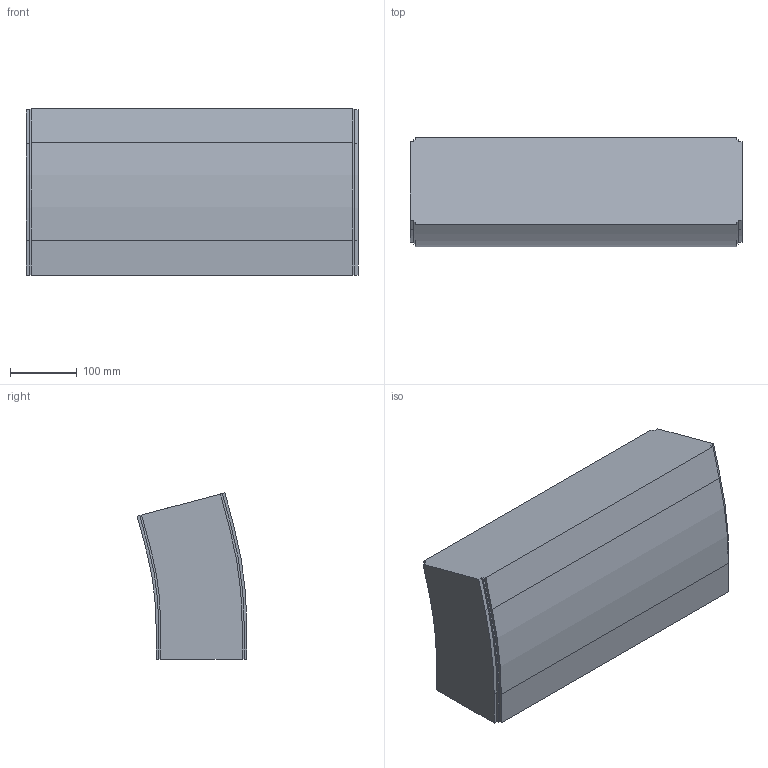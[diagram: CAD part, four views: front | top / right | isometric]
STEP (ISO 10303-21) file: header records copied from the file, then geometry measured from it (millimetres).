
FILE_DESCRIPTION (( 'STEP AP214' ), '1' );
FILE_NAME ('FS-MTC2-150-INOX verticaalbocht.500 15°.STEP', '2017-02-08T12:42:19', ( '' ), ( '' ), 'SwSTEP 2.0', 'SolidWorks 2016', '' );
FILE_SCHEMA (( 'AUTOMOTIVE_DESIGN' ));
Length unit declared in the file: millimetre
Products named in the file (1): FS-MTC2-150-INOX verticaalbocht.500 15°
Bounding box: 499 x 164.8 x 250.28 mm (x, y, z)
Volume: 16020019 mm3; surface area: 435649.1 mm2
Topology: 1 solids, 1 shells, 42 faces, 120 edges, 80 vertices
Faces by surface type: plane 32, cylinder 10
Entity records: 1398 total; most frequent: CARTESIAN_POINT 243, ORIENTED_EDGE 240, DIRECTION 226, EDGE_CURVE 120, LINE 100, VECTOR 100, VERTEX_POINT 80, AXIS2_PLACEMENT_3D 63
